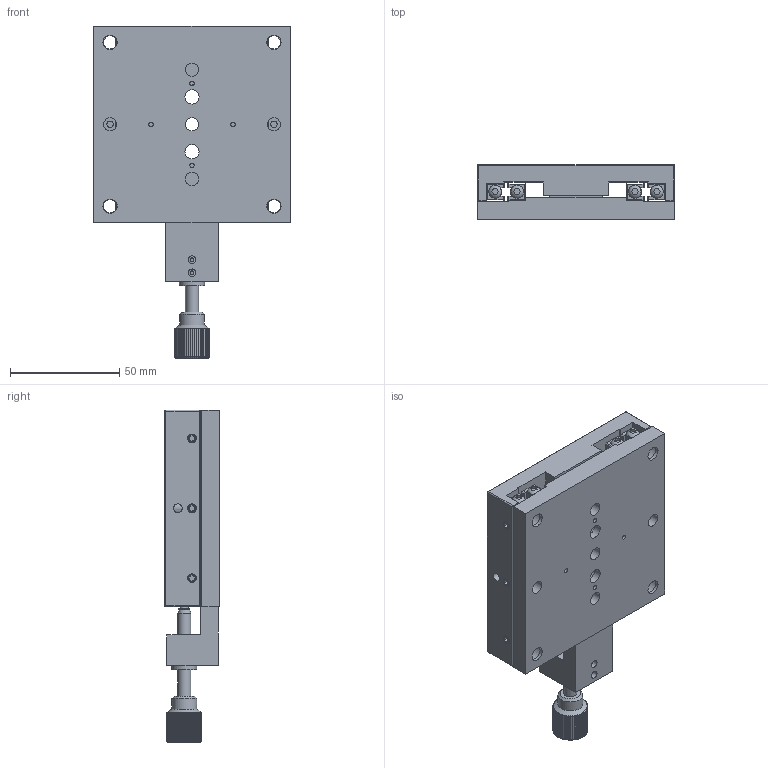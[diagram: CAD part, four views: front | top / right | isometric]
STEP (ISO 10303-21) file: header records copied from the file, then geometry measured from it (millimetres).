
FILE_DESCRIPTION (( 'STEP AP203' ), '1' );
FILE_NAME ('TCS90X-1A.step', '2017-01-10T09:18:35', ( '¦K¬P' ), ( '' ), 'SwSTEP 2.0', 'SolidWorks 2012', '' );
FILE_SCHEMA (( 'CONFIG_CONTROL_DESIGN' ));
Length unit declared in the file: millimetre
Products named in the file (1): TCS90X-1A
Bounding box: 90 x 25 x 152 mm (x, y, z)
Surface area: 59982.3 mm2 (no closed solid volume)
Topology: 0 solids, 28 shells, 510 faces, 1489 edges, 1004 vertices
Faces by surface type: plane 353, cylinder 133, cone 10, torus 9, sphere 5
Full cylindrical faces by diameter (mm): 1.7 x2, 2 x6, 3 x4, 3.5 x2, 4 x15, 5 x1, 6 x21, 6.5 x6, 8 x1, 10 x1, 11 x8, 11.4 x1, 11.5 x1
Entity records: 16982 total; most frequent: CARTESIAN_POINT 4090, ORIENTED_EDGE 2562, DIRECTION 2432, EDGE_CURVE 1367, VERTEX_POINT 976, AXIS2_PLACEMENT_3D 826, VECTOR 780, LINE 780
